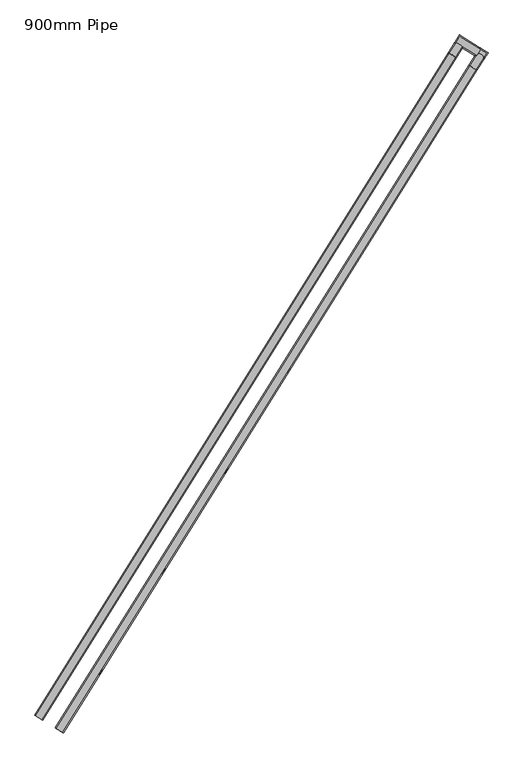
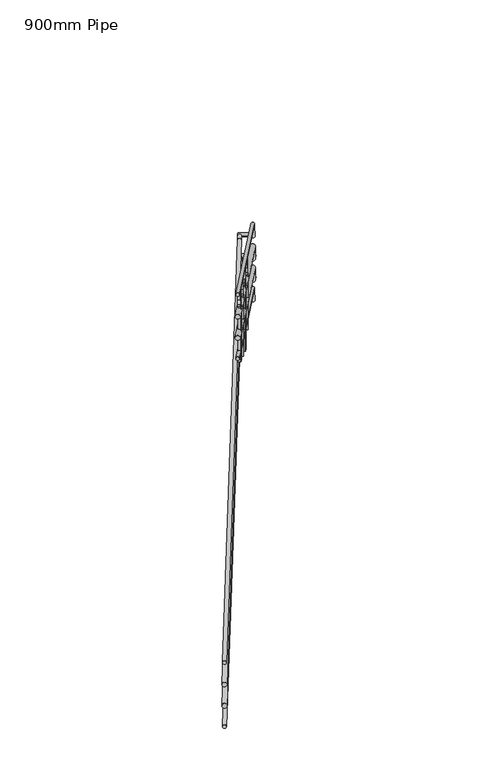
"""IFC4 building model written with IfcOpenShell, lengths in millimetres: railing geometry, 900mm Pipe."""

from ifc_helpers import new_model, si_unit, point, frame, frame_2d, origin, place, context, project, spatial, polyline, circle_curve, ellipse_curve, trimmed, segment, composite_curve, outline, extrude, source, transform, mapped, element, save
from ifc_brep_helpers import plane_surface, cylinder_surface, advanced_brep


def railing_900mm_pipe_27f02cc4(model_context):
    return source(origin(), model_context, "Body", "SolidModel", [
        advanced_brep(
        [(45849.2255802, -53294.2540452, 833.2294902), (45874.6670231, -53310.1516232, 833.2294902), (47597.9591522, -50495.6953279, 2483.2294902), (47623.400595, -50511.5929058, 2483.2294902)],
        [
            (0, 1, ellipse_curve(frame((45861.9463016, -53302.2028342, 833.2294902), z_axis=(-0.5299192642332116, -0.8480480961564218, 0.0), x_axis=(0.0, 0.0, -1.0)), 16.7705098, 15.0)),
            (1, 0, ellipse_curve(frame((45861.9463016, -53302.2028342, 833.2294902), z_axis=(-0.5299192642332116, -0.8480480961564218, 0.0), x_axis=(0.0, 0.0, -1.0)), 16.7705098, 15.0)),
            (2, 3, ellipse_curve(frame((47610.6798736, -50503.6441169, 2483.2294902), z_axis=(0.5299192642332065, 0.848048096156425, 0.0), x_axis=(0.0, 0.0, -1.0)), 16.7705098, 15.0)),
            (3, 2, ellipse_curve(frame((47610.6798736, -50503.6441169, 2483.2294902), z_axis=(0.5299192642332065, 0.848048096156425, 0.0), x_axis=(0.0, 0.0, -1.0)), 16.7705098, 15.0)),
            (0, 2),
            (3, 1),
        ],
        [
            plane_surface(frame((45861.9463016, -53302.2028342, 850.0), z_axis=(-0.5299192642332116, -0.8480480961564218, 0.0), x_axis=(0.8480480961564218, -0.5299192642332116, 0.0))),
            plane_surface(frame((47610.6798736, -50503.6441169, 2500.0), z_axis=(0.5299192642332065, 0.848048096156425, 0.0), x_axis=(0.848048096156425, -0.5299192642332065, 0.0))),
            cylinder_surface(frame((45865.5011081, -53296.5139546, 836.5835921), z_axis=(-0.47397419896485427, -0.758517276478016, -0.44721359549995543), x_axis=(0.848048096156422, -0.5299192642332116, 0.0)), 15.0),
        ],
        [
            (0, [[1, 2]]),
            (1, [[3, 4]]),
            (2, [[-1, 5, -4, 6]]),
            (2, [[-2, -6, -3, -5]]),
        ],
    ),
        advanced_brep(
        [(47597.9591522, -50495.6953279, 2485.0), (47623.400595, -50511.5929058, 2485.0), (47625.9354666, -50450.9238659, 2485.0), (47651.3769095, -50466.8214438, 2485.0)],
        [
            (0, 1, circle_curve(frame((47610.6798736, -50503.6441169, 2485.0), z_axis=(-0.5299192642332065, -0.848048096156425, 0.0), x_axis=(0.848048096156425, -0.5299192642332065, 0.0)), 15.0)),
            (1, 0, circle_curve(frame((47610.6798736, -50503.6441169, 2485.0), z_axis=(-0.5299192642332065, -0.848048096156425, 0.0), x_axis=(0.848048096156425, -0.5299192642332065, 0.0)), 15.0)),
            (2, 3, circle_curve(frame((47638.6561881, -50458.8726548, 2485.0), z_axis=(0.5299192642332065, 0.848048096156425, 0.0), x_axis=(0.848048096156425, -0.5299192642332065, 0.0)), 15.0)),
            (3, 2, circle_curve(frame((47638.6561881, -50458.8726548, 2485.0), z_axis=(0.5299192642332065, 0.848048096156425, 0.0), x_axis=(0.848048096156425, -0.5299192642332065, 0.0)), 15.0)),
            (0, 2),
            (3, 1),
        ],
        [
            plane_surface(frame((47610.6798736, -50503.6441169, 2500.0), z_axis=(-0.5299192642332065, -0.848048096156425, 0.0), x_axis=(0.848048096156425, -0.5299192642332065, 0.0))),
            plane_surface(frame((47638.6561881, -50458.8726548, 2500.0), z_axis=(0.529919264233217, 0.8480480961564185, 0.0), x_axis=(0.8480480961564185, -0.529919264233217, 0.0))),
            cylinder_surface(frame((47610.6798736, -50503.6441169, 2485.0), z_axis=(-0.5299192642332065, -0.848048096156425, 0.0), x_axis=(0.848048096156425, -0.5299192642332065, 0.0)), 15.0),
        ],
        [
            (0, [[1, 2]]),
            (1, [[3, 4]]),
            (2, [[-1, 5, -4, 6]]),
            (2, [[-2, -6, -3, -5]]),
        ],
    ),
        advanced_brep(
        [(47641.8330446, -50425.482423, 2485.0), (47625.9354666, -50450.9238659, 2485.0), (47728.6891953, -50479.7561696, 2485.0), (47712.7916173, -50505.1976125, 2485.0)],
        [
            (0, 1, circle_curve(frame((47633.8842556, -50438.2031444, 2485.0), z_axis=(-0.8480480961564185, 0.529919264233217, 0.0), x_axis=(-0.529919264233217, -0.8480480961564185, 0.0)), 15.0)),
            (1, 0, circle_curve(frame((47633.8842556, -50438.2031444, 2485.0), z_axis=(-0.8480480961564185, 0.529919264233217, 0.0), x_axis=(-0.529919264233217, -0.8480480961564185, 0.0)), 15.0)),
            (2, 3, circle_curve(frame((47720.7404063, -50492.476891, 2485.0), z_axis=(0.8480480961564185, -0.529919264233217, 0.0), x_axis=(-0.529919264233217, -0.8480480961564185, 0.0)), 15.0)),
            (3, 2, circle_curve(frame((47720.7404063, -50492.476891, 2485.0), z_axis=(0.8480480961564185, -0.529919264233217, 0.0), x_axis=(-0.529919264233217, -0.8480480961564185, 0.0)), 15.0)),
            (0, 2),
            (3, 1),
        ],
        [
            plane_surface(frame((47633.8842556, -50438.2031444, 2500.0), z_axis=(-0.848048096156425, 0.5299192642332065, 0.0), x_axis=(0.5299192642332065, 0.848048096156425, 0.0))),
            plane_surface(frame((47720.7404063, -50492.476891, 2500.0), z_axis=(0.8480480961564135, -0.5299192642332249, 0.0), x_axis=(0.5299192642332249, 0.8480480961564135, 0.0))),
            cylinder_surface(frame((47633.8842556, -50438.2031444, 2485.0), z_axis=(-0.8480480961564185, 0.529919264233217, 0.0), x_axis=(-0.529919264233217, -0.8480480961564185, 0.0)), 15.0),
        ],
        [
            (0, [[1, 2]]),
            (1, [[3, 4]]),
            (2, [[-1, 5, -4, 6]]),
            (2, [[-2, -6, -3, -5]]),
        ],
    ),
        advanced_brep(
        [(47754.1306382, -50495.6537475, 2485.0), (47728.6891953, -50479.7561696, 2485.0), (47741.0514371, -50516.5848446, 2485.0), (47715.6099942, -50500.6872667, 2485.0), (47710.2567458, -50565.8666524, 2613.5787167), (47684.8153029, -50549.9690745, 2613.5787167)],
        [
            (0, 1, circle_curve(frame((47741.4099167, -50487.7049585, 2485.0), z_axis=(0.5299192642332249, 0.8480480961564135, 0.0), x_axis=(-0.8480480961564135, 0.5299192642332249, 0.0)), 15.0)),
            (1, 0, circle_curve(frame((47741.4099167, -50487.7049585, 2485.0), z_axis=(0.5299192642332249, 0.8480480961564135, 0.0), x_axis=(-0.8480480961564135, 0.5299192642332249, 0.0)), 15.0)),
            (0, 2),
            (2, 3, ellipse_curve(frame((47728.3307156, -50508.6360557, 2485.0), z_axis=(0.44523422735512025, 0.7125237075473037, -0.5422881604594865), x_axis=(0.28736894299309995, 0.45988644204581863, 0.8401925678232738)), 17.8530501, 15.0)),
            (3, 1),
            (3, 2, ellipse_curve(frame((47728.3307156, -50508.6360557, 2485.0), z_axis=(0.44523422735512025, 0.7125237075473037, -0.5422881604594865), x_axis=(0.28736894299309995, 0.45988644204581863, 0.8401925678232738)), 17.8530501, 15.0)),
            (4, 5, ellipse_curve(frame((47697.5360243, -50557.9178635, 2613.5787167), z_axis=(-0.5299192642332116, -0.8480480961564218, 0.0), x_axis=(0.0, 0.0, -1.0)), 36.4212833, 15.0)),
            (5, 4, ellipse_curve(frame((47697.5360243, -50557.9178635, 2613.5787167), z_axis=(-0.5299192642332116, -0.8480480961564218, 0.0), x_axis=(0.0, 0.0, -1.0)), 36.4212833, 15.0)),
            (2, 4),
            (5, 3),
        ],
        [
            plane_surface(frame((47741.4099167, -50487.7049585, 2500.0), z_axis=(0.529919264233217, 0.8480480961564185, 0.0), x_axis=(0.8480480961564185, -0.529919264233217, 0.0))),
            cylinder_surface(frame((47741.4099167, -50487.7049585, 2485.0), z_axis=(0.5299192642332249, 0.8480480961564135, 0.0), x_axis=(-0.8480480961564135, 0.5299192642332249, 0.0)), 15.0),
            plane_surface(frame((47697.5360243, -50557.9178635, 2650.0), z_axis=(-0.5299192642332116, -0.8480480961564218, 0.0), x_axis=(0.8480480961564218, -0.5299192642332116, 0.0))),
            cylinder_surface(frame((47726.2177702, -50512.0174751, 2493.8222935), z_axis=(0.21824571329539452, 0.34926615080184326, -0.9112529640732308), x_axis=(-0.848048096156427, 0.5299192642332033, 0.0)), 15.0),
        ],
        [
            (0, [[1, 2]]),
            (1, [[-1, 3, 4, 5]]),
            (1, [[-2, -5, 6, -3]]),
            (2, [[7, 8]]),
            (3, [[-4, 9, -8, 10]]),
            (3, [[-6, -10, -7, -9]]),
        ],
    ),
        advanced_brep(
        [(47710.2567458, -50565.8666524, 2633.2294902), (47684.8153029, -50549.9690745, 2633.2294902), (45961.5231738, -53364.4253698, 4283.2294902), (45936.0817309, -53348.5277918, 4283.2294902)],
        [
            (0, 1, ellipse_curve(frame((47697.5360243, -50557.9178635, 2633.2294902), z_axis=(0.5299192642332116, 0.8480480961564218, 0.0), x_axis=(0.0, 0.0, -1.0)), 16.7705098, 15.0)),
            (1, 0, ellipse_curve(frame((47697.5360243, -50557.9178635, 2633.2294902), z_axis=(0.5299192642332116, 0.8480480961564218, 0.0), x_axis=(0.0, 0.0, -1.0)), 16.7705098, 15.0)),
            (2, 3, ellipse_curve(frame((45948.8024523, -53356.4765808, 4283.2294902), z_axis=(-0.5299192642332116, -0.8480480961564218, 0.0), x_axis=(0.0, 0.0, -1.0)), 16.7705098, 15.0)),
            (3, 2, ellipse_curve(frame((45948.8024523, -53356.4765808, 4283.2294902), z_axis=(-0.5299192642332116, -0.8480480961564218, 0.0), x_axis=(0.0, 0.0, -1.0)), 16.7705098, 15.0)),
            (0, 2),
            (3, 1),
        ],
        [
            plane_surface(frame((47697.5360243, -50557.9178635, 2650.0), z_axis=(0.5299192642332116, 0.8480480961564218, 0.0), x_axis=(0.8480480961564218, -0.5299192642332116, 0.0))),
            plane_surface(frame((45948.8024523, -53356.4765808, 4300.0), z_axis=(-0.5299192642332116, -0.8480480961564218, 0.0), x_axis=(0.8480480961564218, -0.5299192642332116, 0.0))),
            cylinder_surface(frame((47693.9812178, -50563.6067431, 2636.5835921), z_axis=(0.47397419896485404, 0.7585172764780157, -0.44721359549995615), x_axis=(-0.8480480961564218, 0.5299192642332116, 0.0)), 15.0),
        ],
        [
            (0, [[1, 2]]),
            (1, [[3, 4]]),
            (2, [[-1, 5, -4, 6]]),
            (2, [[-2, -6, -3, -5]]),
        ],
    ),
        advanced_brep(
        [(45844.9853397, -53291.6044489, 627.6393202), (45878.9072636, -53312.8012195, 627.6393202), (47593.7189117, -50493.0457316, 2277.6393202), (47627.6408355, -50514.2425022, 2277.6393202)],
        [
            (0, 1, ellipse_curve(frame((45861.9463016, -53302.2028342, 627.6393202), z_axis=(-0.5299192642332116, -0.8480480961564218, 0.0), x_axis=(0.0, 0.0, -1.0)), 22.3606798, 20.0)),
            (1, 0, ellipse_curve(frame((45861.9463016, -53302.2028342, 627.6393202), z_axis=(-0.5299192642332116, -0.8480480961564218, 0.0), x_axis=(0.0, 0.0, -1.0)), 22.3606798, 20.0)),
            (2, 3, ellipse_curve(frame((47610.6798736, -50503.6441169, 2277.6393202), z_axis=(0.5299192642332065, 0.848048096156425, 0.0), x_axis=(0.0, 0.0, -1.0)), 22.3606798, 20.0)),
            (3, 2, ellipse_curve(frame((47610.6798736, -50503.6441169, 2277.6393202), z_axis=(0.5299192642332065, 0.848048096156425, 0.0), x_axis=(0.0, 0.0, -1.0)), 22.3606798, 20.0)),
            (0, 2),
            (3, 1),
        ],
        [
            plane_surface(frame((45861.9463016, -53302.2028342, 650.0), z_axis=(-0.5299192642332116, -0.8480480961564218, 0.0), x_axis=(0.8480480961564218, -0.5299192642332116, 0.0))),
            plane_surface(frame((47610.6798736, -50503.6441169, 2300.0), z_axis=(0.5299192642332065, 0.848048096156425, 0.0), x_axis=(0.848048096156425, -0.5299192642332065, 0.0))),
            cylinder_surface(frame((45866.6860436, -53294.6176614, 632.1114562), z_axis=(-0.47397419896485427, -0.758517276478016, -0.44721359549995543), x_axis=(0.848048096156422, -0.5299192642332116, 0.0)), 20.0),
        ],
        [
            (0, [[1, 2]]),
            (1, [[3, 4]]),
            (2, [[-1, 5, -4, 6]]),
            (2, [[-2, -6, -3, -5]]),
        ],
    ),
        advanced_brep(
        [(47593.7189117, -50493.0457316, 2280.0), (47627.6408355, -50514.2425022, 2280.0), (47619.0456298, -50452.51451, 2280.0), (47652.9675537, -50473.7112806, 2280.0)],
        [
            (0, 1, circle_curve(frame((47610.6798736, -50503.6441169, 2280.0), z_axis=(-0.5299192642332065, -0.848048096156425, 0.0), x_axis=(0.848048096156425, -0.5299192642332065, 0.0)), 20.0)),
            (1, 0, circle_curve(frame((47610.6798736, -50503.6441169, 2280.0), z_axis=(-0.5299192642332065, -0.848048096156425, 0.0), x_axis=(0.848048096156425, -0.5299192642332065, 0.0)), 20.0)),
            (2, 3, circle_curve(frame((47636.0065918, -50463.1128953, 2280.0), z_axis=(0.5299192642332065, 0.848048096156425, 0.0), x_axis=(0.848048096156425, -0.5299192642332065, 0.0)), 20.0)),
            (3, 2, circle_curve(frame((47636.0065918, -50463.1128953, 2280.0), z_axis=(0.5299192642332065, 0.848048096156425, 0.0), x_axis=(0.848048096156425, -0.5299192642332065, 0.0)), 20.0)),
            (0, 2),
            (3, 1),
        ],
        [
            plane_surface(frame((47610.6798736, -50503.6441169, 2300.0), z_axis=(-0.5299192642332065, -0.848048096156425, 0.0), x_axis=(0.848048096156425, -0.5299192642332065, 0.0))),
            plane_surface(frame((47636.0065918, -50463.1128953, 2300.0), z_axis=(0.529919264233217, 0.8480480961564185, 0.0), x_axis=(0.8480480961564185, -0.529919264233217, 0.0))),
            cylinder_surface(frame((47610.6798736, -50503.6441169, 2280.0), z_axis=(-0.5299192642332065, -0.848048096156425, 0.0), x_axis=(0.848048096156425, -0.5299192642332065, 0.0)), 20.0),
        ],
        [
            (0, [[1, 2]]),
            (1, [[3, 4]]),
            (2, [[-1, 5, -4, 6]]),
            (2, [[-2, -6, -3, -5]]),
        ],
    ),
        advanced_brep(
        [(47640.2424004, -50418.5925862, 2280.0), (47619.0456298, -50452.51451, 2280.0), (47727.0985511, -50472.8663328, 2280.0), (47705.9017805, -50506.7882566, 2280.0)],
        [
            (0, 1, circle_curve(frame((47629.6440151, -50435.5535481, 2280.0), z_axis=(-0.8480480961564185, 0.529919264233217, 0.0), x_axis=(-0.529919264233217, -0.8480480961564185, 0.0)), 20.0)),
            (1, 0, circle_curve(frame((47629.6440151, -50435.5535481, 2280.0), z_axis=(-0.8480480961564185, 0.529919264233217, 0.0), x_axis=(-0.529919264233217, -0.8480480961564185, 0.0)), 20.0)),
            (2, 3, circle_curve(frame((47716.5001658, -50489.8272947, 2280.0), z_axis=(0.8480480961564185, -0.529919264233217, 0.0), x_axis=(-0.529919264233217, -0.8480480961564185, 0.0)), 20.0)),
            (3, 2, circle_curve(frame((47716.5001658, -50489.8272947, 2280.0), z_axis=(0.8480480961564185, -0.529919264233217, 0.0), x_axis=(-0.529919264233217, -0.8480480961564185, 0.0)), 20.0)),
            (0, 2),
            (3, 1),
        ],
        [
            plane_surface(frame((47629.6440151, -50435.5535481, 2300.0), z_axis=(-0.848048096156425, 0.5299192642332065, 0.0), x_axis=(0.5299192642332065, 0.848048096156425, 0.0))),
            plane_surface(frame((47716.5001658, -50489.8272947, 2300.0), z_axis=(0.8480480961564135, -0.5299192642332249, 0.0), x_axis=(0.5299192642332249, 0.8480480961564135, 0.0))),
            cylinder_surface(frame((47629.6440151, -50435.5535481, 2280.0), z_axis=(-0.8480480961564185, 0.529919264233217, 0.0), x_axis=(-0.529919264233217, -0.8480480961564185, 0.0)), 20.0),
        ],
        [
            (0, [[1, 2]]),
            (1, [[3, 4]]),
            (2, [[-1, 5, -4, 6]]),
            (2, [[-2, -6, -3, -5]]),
        ],
    ),
        advanced_brep(
        [(47761.020475, -50494.0631033, 2280.0), (47727.0985511, -50472.8663328, 2280.0), (47743.5815402, -50521.9712329, 2280.0), (47709.6596163, -50500.7744623, 2280.0), (47714.4969862, -50568.5162488, 2401.4382889), (47680.5750624, -50547.3194782, 2401.4382889)],
        [
            (0, 1, circle_curve(frame((47744.059513, -50483.4647181, 2280.0), z_axis=(0.5299192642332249, 0.8480480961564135, 0.0), x_axis=(-0.8480480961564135, 0.5299192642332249, 0.0)), 20.0)),
            (1, 0, circle_curve(frame((47744.059513, -50483.4647181, 2280.0), z_axis=(0.5299192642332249, 0.8480480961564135, 0.0), x_axis=(-0.8480480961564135, 0.5299192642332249, 0.0)), 20.0)),
            (0, 2),
            (2, 3, ellipse_curve(frame((47726.6205782, -50511.3728476, 2280.0), z_axis=(0.44523422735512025, 0.7125237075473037, -0.5422881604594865), x_axis=(0.28736894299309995, 0.45988644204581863, 0.8401925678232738)), 23.8040668, 20.0)),
            (3, 1),
            (3, 2, ellipse_curve(frame((47726.6205782, -50511.3728476, 2280.0), z_axis=(0.44523422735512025, 0.7125237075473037, -0.5422881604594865), x_axis=(0.28736894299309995, 0.45988644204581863, 0.8401925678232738)), 23.8040668, 20.0)),
            (4, 5, ellipse_curve(frame((47697.5360243, -50557.9178635, 2401.4382889), z_axis=(-0.5299192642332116, -0.8480480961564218, 0.0), x_axis=(0.0, 0.0, -1.0)), 48.5617111, 20.0)),
            (5, 4, ellipse_curve(frame((47697.5360243, -50557.9178635, 2401.4382889), z_axis=(-0.5299192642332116, -0.8480480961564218, 0.0), x_axis=(0.0, 0.0, -1.0)), 48.5617111, 20.0)),
            (2, 4),
            (5, 3),
        ],
        [
            plane_surface(frame((47744.059513, -50483.4647181, 2300.0), z_axis=(0.529919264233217, 0.8480480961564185, 0.0), x_axis=(0.8480480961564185, -0.529919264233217, 0.0))),
            cylinder_surface(frame((47744.059513, -50483.4647181, 2280.0), z_axis=(0.5299192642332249, 0.8480480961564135, 0.0), x_axis=(-0.8480480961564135, 0.5299192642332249, 0.0)), 20.0),
            plane_surface(frame((47697.5360243, -50557.9178635, 2450.0), z_axis=(-0.5299192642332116, -0.8480480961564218, 0.0), x_axis=(0.8480480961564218, -0.5299192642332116, 0.0))),
            cylinder_surface(frame((47723.8033177, -50515.8814068, 2291.763058), z_axis=(0.21824571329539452, 0.34926615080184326, -0.9112529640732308), x_axis=(-0.848048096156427, 0.5299192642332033, 0.0)), 20.0),
        ],
        [
            (0, [[1, 2]]),
            (1, [[-1, 3, 4, 5]]),
            (1, [[-2, -5, 6, -3]]),
            (2, [[7, 8]]),
            (3, [[-4, 9, -8, 10]]),
            (3, [[-6, -10, -7, -9]]),
        ],
    ),
        advanced_brep(
        [(47714.4969862, -50568.5162488, 2427.6393202), (47680.5750624, -50547.3194782, 2427.6393202), (45965.7634143, -53367.0749661, 4077.6393202), (45931.8414904, -53345.8781955, 4077.6393202)],
        [
            (0, 1, ellipse_curve(frame((47697.5360243, -50557.9178635, 2427.6393202), z_axis=(0.5299192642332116, 0.8480480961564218, 0.0), x_axis=(0.0, 0.0, -1.0)), 22.3606798, 20.0)),
            (1, 0, ellipse_curve(frame((47697.5360243, -50557.9178635, 2427.6393202), z_axis=(0.5299192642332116, 0.8480480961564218, 0.0), x_axis=(0.0, 0.0, -1.0)), 22.3606798, 20.0)),
            (2, 3, ellipse_curve(frame((45948.8024523, -53356.4765808, 4077.6393202), z_axis=(-0.5299192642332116, -0.8480480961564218, 0.0), x_axis=(0.0, 0.0, -1.0)), 22.3606798, 20.0)),
            (3, 2, ellipse_curve(frame((45948.8024523, -53356.4765808, 4077.6393202), z_axis=(-0.5299192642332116, -0.8480480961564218, 0.0), x_axis=(0.0, 0.0, -1.0)), 22.3606798, 20.0)),
            (0, 2),
            (3, 1),
        ],
        [
            plane_surface(frame((47697.5360243, -50557.9178635, 2450.0), z_axis=(0.5299192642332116, 0.8480480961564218, 0.0), x_axis=(0.8480480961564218, -0.5299192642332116, 0.0))),
            plane_surface(frame((45948.8024523, -53356.4765808, 4100.0), z_axis=(-0.5299192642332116, -0.8480480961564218, 0.0), x_axis=(0.8480480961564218, -0.5299192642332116, 0.0))),
            cylinder_surface(frame((47692.7962823, -50565.5030362, 2432.1114562), z_axis=(0.47397419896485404, 0.7585172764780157, -0.44721359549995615), x_axis=(-0.8480480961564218, 0.5299192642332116, 0.0)), 20.0),
        ],
        [
            (0, [[1, 2]]),
            (1, [[3, 4]]),
            (2, [[-1, 5, -4, 6]]),
            (2, [[-2, -6, -3, -5]]),
        ],
    ),
        advanced_brep(
        [(45844.9853397, -53291.6044489, 427.6393202), (45878.9072636, -53312.8012195, 427.6393202), (47593.7189117, -50493.0457316, 2077.6393202), (47627.6408355, -50514.2425022, 2077.6393202)],
        [
            (0, 1, ellipse_curve(frame((45861.9463016, -53302.2028342, 427.6393202), z_axis=(-0.5299192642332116, -0.8480480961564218, 0.0), x_axis=(0.0, 0.0, -1.0)), 22.3606798, 20.0)),
            (1, 0, ellipse_curve(frame((45861.9463016, -53302.2028342, 427.6393202), z_axis=(-0.5299192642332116, -0.8480480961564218, 0.0), x_axis=(0.0, 0.0, -1.0)), 22.3606798, 20.0)),
            (2, 3, ellipse_curve(frame((47610.6798736, -50503.6441169, 2077.6393202), z_axis=(0.5299192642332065, 0.848048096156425, 0.0), x_axis=(0.0, 0.0, -1.0)), 22.3606798, 20.0)),
            (3, 2, ellipse_curve(frame((47610.6798736, -50503.6441169, 2077.6393202), z_axis=(0.5299192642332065, 0.848048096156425, 0.0), x_axis=(0.0, 0.0, -1.0)), 22.3606798, 20.0)),
            (0, 2),
            (3, 1),
        ],
        [
            plane_surface(frame((45861.9463016, -53302.2028342, 450.0), z_axis=(-0.5299192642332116, -0.8480480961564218, 0.0), x_axis=(0.8480480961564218, -0.5299192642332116, 0.0))),
            plane_surface(frame((47610.6798736, -50503.6441169, 2100.0), z_axis=(0.5299192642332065, 0.848048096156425, 0.0), x_axis=(0.848048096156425, -0.5299192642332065, 0.0))),
            cylinder_surface(frame((45866.6860436, -53294.6176614, 432.1114562), z_axis=(-0.47397419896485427, -0.758517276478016, -0.44721359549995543), x_axis=(0.848048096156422, -0.5299192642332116, 0.0)), 20.0),
        ],
        [
            (0, [[1, 2]]),
            (1, [[3, 4]]),
            (2, [[-1, 5, -4, 6]]),
            (2, [[-2, -6, -3, -5]]),
        ],
    ),
        advanced_brep(
        [(47593.7189117, -50493.0457316, 2080.0), (47627.6408355, -50514.2425022, 2080.0), (47619.0456298, -50452.51451, 2080.0), (47652.9675537, -50473.7112806, 2080.0)],
        [
            (0, 1, circle_curve(frame((47610.6798736, -50503.6441169, 2080.0), z_axis=(-0.5299192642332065, -0.848048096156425, 0.0), x_axis=(0.848048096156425, -0.5299192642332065, 0.0)), 20.0)),
            (1, 0, circle_curve(frame((47610.6798736, -50503.6441169, 2080.0), z_axis=(-0.5299192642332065, -0.848048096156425, 0.0), x_axis=(0.848048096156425, -0.5299192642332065, 0.0)), 20.0)),
            (2, 3, circle_curve(frame((47636.0065918, -50463.1128953, 2080.0), z_axis=(0.5299192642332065, 0.848048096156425, 0.0), x_axis=(0.848048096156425, -0.5299192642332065, 0.0)), 20.0)),
            (3, 2, circle_curve(frame((47636.0065918, -50463.1128953, 2080.0), z_axis=(0.5299192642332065, 0.848048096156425, 0.0), x_axis=(0.848048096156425, -0.5299192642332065, 0.0)), 20.0)),
            (0, 2),
            (3, 1),
        ],
        [
            plane_surface(frame((47610.6798736, -50503.6441169, 2100.0), z_axis=(-0.5299192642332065, -0.848048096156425, 0.0), x_axis=(0.848048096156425, -0.5299192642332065, 0.0))),
            plane_surface(frame((47636.0065918, -50463.1128953, 2100.0), z_axis=(0.529919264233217, 0.8480480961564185, 0.0), x_axis=(0.8480480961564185, -0.529919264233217, 0.0))),
            cylinder_surface(frame((47610.6798736, -50503.6441169, 2080.0), z_axis=(-0.5299192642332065, -0.848048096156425, 0.0), x_axis=(0.848048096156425, -0.5299192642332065, 0.0)), 20.0),
        ],
        [
            (0, [[1, 2]]),
            (1, [[3, 4]]),
            (2, [[-1, 5, -4, 6]]),
            (2, [[-2, -6, -3, -5]]),
        ],
    ),
        advanced_brep(
        [(47640.2424004, -50418.5925862, 2080.0), (47619.0456298, -50452.51451, 2080.0), (47727.0985511, -50472.8663328, 2080.0), (47705.9017805, -50506.7882566, 2080.0)],
        [
            (0, 1, circle_curve(frame((47629.6440151, -50435.5535481, 2080.0), z_axis=(-0.8480480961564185, 0.529919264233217, 0.0), x_axis=(-0.529919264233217, -0.8480480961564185, 0.0)), 20.0)),
            (1, 0, circle_curve(frame((47629.6440151, -50435.5535481, 2080.0), z_axis=(-0.8480480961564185, 0.529919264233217, 0.0), x_axis=(-0.529919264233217, -0.8480480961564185, 0.0)), 20.0)),
            (2, 3, circle_curve(frame((47716.5001658, -50489.8272947, 2080.0), z_axis=(0.8480480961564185, -0.529919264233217, 0.0), x_axis=(-0.529919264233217, -0.8480480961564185, 0.0)), 20.0)),
            (3, 2, circle_curve(frame((47716.5001658, -50489.8272947, 2080.0), z_axis=(0.8480480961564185, -0.529919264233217, 0.0), x_axis=(-0.529919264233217, -0.8480480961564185, 0.0)), 20.0)),
            (0, 2),
            (3, 1),
        ],
        [
            plane_surface(frame((47629.6440151, -50435.5535481, 2100.0), z_axis=(-0.848048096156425, 0.5299192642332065, 0.0), x_axis=(0.5299192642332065, 0.848048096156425, 0.0))),
            plane_surface(frame((47716.5001658, -50489.8272947, 2100.0), z_axis=(0.8480480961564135, -0.5299192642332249, 0.0), x_axis=(0.5299192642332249, 0.8480480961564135, 0.0))),
            cylinder_surface(frame((47629.6440151, -50435.5535481, 2080.0), z_axis=(-0.8480480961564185, 0.529919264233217, 0.0), x_axis=(-0.529919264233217, -0.8480480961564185, 0.0)), 20.0),
        ],
        [
            (0, [[1, 2]]),
            (1, [[3, 4]]),
            (2, [[-1, 5, -4, 6]]),
            (2, [[-2, -6, -3, -5]]),
        ],
    ),
        advanced_brep(
        [(47761.020475, -50494.0631033, 2080.0), (47727.0985511, -50472.8663328, 2080.0), (47743.5815402, -50521.9712329, 2080.0), (47709.6596163, -50500.7744623, 2080.0), (47714.4969862, -50568.5162488, 2201.4382889), (47680.5750624, -50547.3194782, 2201.4382889)],
        [
            (0, 1, circle_curve(frame((47744.059513, -50483.4647181, 2080.0), z_axis=(0.5299192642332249, 0.8480480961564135, 0.0), x_axis=(-0.8480480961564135, 0.5299192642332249, 0.0)), 20.0)),
            (1, 0, circle_curve(frame((47744.059513, -50483.4647181, 2080.0), z_axis=(0.5299192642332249, 0.8480480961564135, 0.0), x_axis=(-0.8480480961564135, 0.5299192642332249, 0.0)), 20.0)),
            (0, 2),
            (2, 3, ellipse_curve(frame((47726.6205782, -50511.3728476, 2080.0), z_axis=(0.44523422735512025, 0.7125237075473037, -0.5422881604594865), x_axis=(0.28736894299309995, 0.45988644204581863, 0.8401925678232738)), 23.8040668, 20.0)),
            (3, 1),
            (3, 2, ellipse_curve(frame((47726.6205782, -50511.3728476, 2080.0), z_axis=(0.44523422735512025, 0.7125237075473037, -0.5422881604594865), x_axis=(0.28736894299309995, 0.45988644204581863, 0.8401925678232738)), 23.8040668, 20.0)),
            (4, 5, ellipse_curve(frame((47697.5360243, -50557.9178635, 2201.4382889), z_axis=(-0.5299192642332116, -0.8480480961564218, 0.0), x_axis=(0.0, 0.0, -1.0)), 48.5617111, 20.0)),
            (5, 4, ellipse_curve(frame((47697.5360243, -50557.9178635, 2201.4382889), z_axis=(-0.5299192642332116, -0.8480480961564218, 0.0), x_axis=(0.0, 0.0, -1.0)), 48.5617111, 20.0)),
            (2, 4),
            (5, 3),
        ],
        [
            plane_surface(frame((47744.059513, -50483.4647181, 2100.0), z_axis=(0.529919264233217, 0.8480480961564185, 0.0), x_axis=(0.8480480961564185, -0.529919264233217, 0.0))),
            cylinder_surface(frame((47744.059513, -50483.4647181, 2080.0), z_axis=(0.5299192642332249, 0.8480480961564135, 0.0), x_axis=(-0.8480480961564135, 0.5299192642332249, 0.0)), 20.0),
            plane_surface(frame((47697.5360243, -50557.9178635, 2250.0), z_axis=(-0.5299192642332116, -0.8480480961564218, 0.0), x_axis=(0.8480480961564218, -0.5299192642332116, 0.0))),
            cylinder_surface(frame((47723.8033177, -50515.8814068, 2091.763058), z_axis=(0.21824571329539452, 0.34926615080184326, -0.9112529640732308), x_axis=(-0.848048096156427, 0.5299192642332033, 0.0)), 20.0),
        ],
        [
            (0, [[1, 2]]),
            (1, [[-1, 3, 4, 5]]),
            (1, [[-2, -5, 6, -3]]),
            (2, [[7, 8]]),
            (3, [[-4, 9, -8, 10]]),
            (3, [[-6, -10, -7, -9]]),
        ],
    ),
        advanced_brep(
        [(47714.4969862, -50568.5162488, 2227.6393202), (47680.5750624, -50547.3194782, 2227.6393202), (45965.7634143, -53367.0749661, 3877.6393202), (45931.8414904, -53345.8781955, 3877.6393202)],
        [
            (0, 1, ellipse_curve(frame((47697.5360243, -50557.9178635, 2227.6393202), z_axis=(0.5299192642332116, 0.8480480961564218, 0.0), x_axis=(0.0, 0.0, -1.0)), 22.3606798, 20.0)),
            (1, 0, ellipse_curve(frame((47697.5360243, -50557.9178635, 2227.6393202), z_axis=(0.5299192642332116, 0.8480480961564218, 0.0), x_axis=(0.0, 0.0, -1.0)), 22.3606798, 20.0)),
            (2, 3, ellipse_curve(frame((45948.8024523, -53356.4765808, 3877.6393202), z_axis=(-0.5299192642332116, -0.8480480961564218, 0.0), x_axis=(0.0, 0.0, -1.0)), 22.3606798, 20.0)),
            (3, 2, ellipse_curve(frame((45948.8024523, -53356.4765808, 3877.6393202), z_axis=(-0.5299192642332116, -0.8480480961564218, 0.0), x_axis=(0.0, 0.0, -1.0)), 22.3606798, 20.0)),
            (0, 2),
            (3, 1),
        ],
        [
            plane_surface(frame((47697.5360243, -50557.9178635, 2250.0), z_axis=(0.5299192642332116, 0.8480480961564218, 0.0), x_axis=(0.8480480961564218, -0.5299192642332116, 0.0))),
            plane_surface(frame((45948.8024523, -53356.4765808, 3900.0), z_axis=(-0.5299192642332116, -0.8480480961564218, 0.0), x_axis=(0.8480480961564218, -0.5299192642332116, 0.0))),
            cylinder_surface(frame((47692.7962823, -50565.5030362, 2232.1114562), z_axis=(0.47397419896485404, 0.7585172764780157, -0.44721359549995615), x_axis=(-0.8480480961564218, 0.5299192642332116, 0.0)), 20.0),
        ],
        [
            (0, [[1, 2]]),
            (1, [[3, 4]]),
            (2, [[-1, 5, -4, 6]]),
            (2, [[-2, -6, -3, -5]]),
        ],
    ),
        advanced_brep(
        [(45849.2255802, -53294.2540452, 233.2294902), (45874.6670231, -53310.1516232, 233.2294902), (47597.9591522, -50495.6953279, 1883.2294902), (47623.400595, -50511.5929058, 1883.2294902)],
        [
            (0, 1, ellipse_curve(frame((45861.9463016, -53302.2028342, 233.2294902), z_axis=(-0.5299192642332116, -0.8480480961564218, 0.0), x_axis=(0.0, 0.0, -1.0)), 16.7705098, 15.0)),
            (1, 0, ellipse_curve(frame((45861.9463016, -53302.2028342, 233.2294902), z_axis=(-0.5299192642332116, -0.8480480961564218, 0.0), x_axis=(0.0, 0.0, -1.0)), 16.7705098, 15.0)),
            (2, 3, ellipse_curve(frame((47610.6798736, -50503.6441169, 1883.2294902), z_axis=(0.5299192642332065, 0.848048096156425, 0.0), x_axis=(0.0, 0.0, -1.0)), 16.7705098, 15.0)),
            (3, 2, ellipse_curve(frame((47610.6798736, -50503.6441169, 1883.2294902), z_axis=(0.5299192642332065, 0.848048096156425, 0.0), x_axis=(0.0, 0.0, -1.0)), 16.7705098, 15.0)),
            (0, 2),
            (3, 1),
        ],
        [
            plane_surface(frame((45861.9463016, -53302.2028342, 250.0), z_axis=(-0.5299192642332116, -0.8480480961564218, 0.0), x_axis=(0.8480480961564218, -0.5299192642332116, 0.0))),
            plane_surface(frame((47610.6798736, -50503.6441169, 1900.0), z_axis=(0.5299192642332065, 0.848048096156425, 0.0), x_axis=(0.848048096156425, -0.5299192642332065, 0.0))),
            cylinder_surface(frame((45865.5011081, -53296.5139546, 236.5835921), z_axis=(-0.47397419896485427, -0.758517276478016, -0.44721359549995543), x_axis=(0.848048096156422, -0.5299192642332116, 0.0)), 15.0),
        ],
        [
            (0, [[1, 2]]),
            (1, [[3, 4]]),
            (2, [[-1, 5, -4, 6]]),
            (2, [[-2, -6, -3, -5]]),
        ],
    ),
        advanced_brep(
        [(47597.9591522, -50495.6953279, 1885.0), (47623.400595, -50511.5929058, 1885.0), (47625.9354666, -50450.9238659, 1885.0), (47651.3769095, -50466.8214438, 1885.0)],
        [
            (0, 1, circle_curve(frame((47610.6798736, -50503.6441169, 1885.0), z_axis=(-0.5299192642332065, -0.848048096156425, 0.0), x_axis=(0.848048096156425, -0.5299192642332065, 0.0)), 15.0)),
            (1, 0, circle_curve(frame((47610.6798736, -50503.6441169, 1885.0), z_axis=(-0.5299192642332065, -0.848048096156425, 0.0), x_axis=(0.848048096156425, -0.5299192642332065, 0.0)), 15.0)),
            (2, 3, circle_curve(frame((47638.6561881, -50458.8726548, 1885.0), z_axis=(0.5299192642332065, 0.848048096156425, 0.0), x_axis=(0.848048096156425, -0.5299192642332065, 0.0)), 15.0)),
            (3, 2, circle_curve(frame((47638.6561881, -50458.8726548, 1885.0), z_axis=(0.5299192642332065, 0.848048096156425, 0.0), x_axis=(0.848048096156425, -0.5299192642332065, 0.0)), 15.0)),
            (0, 2),
            (3, 1),
        ],
        [
            plane_surface(frame((47610.6798736, -50503.6441169, 1900.0), z_axis=(-0.5299192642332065, -0.848048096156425, 0.0), x_axis=(0.848048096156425, -0.5299192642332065, 0.0))),
            plane_surface(frame((47638.6561881, -50458.8726548, 1900.0), z_axis=(0.529919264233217, 0.8480480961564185, 0.0), x_axis=(0.8480480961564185, -0.529919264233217, 0.0))),
            cylinder_surface(frame((47610.6798736, -50503.6441169, 1885.0), z_axis=(-0.5299192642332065, -0.848048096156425, 0.0), x_axis=(0.848048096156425, -0.5299192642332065, 0.0)), 15.0),
        ],
        [
            (0, [[1, 2]]),
            (1, [[3, 4]]),
            (2, [[-1, 5, -4, 6]]),
            (2, [[-2, -6, -3, -5]]),
        ],
    ),
        advanced_brep(
        [(47641.8330446, -50425.482423, 1885.0), (47625.9354666, -50450.9238659, 1885.0), (47728.6891953, -50479.7561696, 1885.0), (47712.7916173, -50505.1976125, 1885.0)],
        [
            (0, 1, circle_curve(frame((47633.8842556, -50438.2031444, 1885.0), z_axis=(-0.8480480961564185, 0.529919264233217, 0.0), x_axis=(-0.529919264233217, -0.8480480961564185, 0.0)), 15.0)),
            (1, 0, circle_curve(frame((47633.8842556, -50438.2031444, 1885.0), z_axis=(-0.8480480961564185, 0.529919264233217, 0.0), x_axis=(-0.529919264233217, -0.8480480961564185, 0.0)), 15.0)),
            (2, 3, circle_curve(frame((47720.7404063, -50492.476891, 1885.0), z_axis=(0.8480480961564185, -0.529919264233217, 0.0), x_axis=(-0.529919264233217, -0.8480480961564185, 0.0)), 15.0)),
            (3, 2, circle_curve(frame((47720.7404063, -50492.476891, 1885.0), z_axis=(0.8480480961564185, -0.529919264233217, 0.0), x_axis=(-0.529919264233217, -0.8480480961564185, 0.0)), 15.0)),
            (0, 2),
            (3, 1),
        ],
        [
            plane_surface(frame((47633.8842556, -50438.2031444, 1900.0), z_axis=(-0.848048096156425, 0.5299192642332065, 0.0), x_axis=(0.5299192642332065, 0.848048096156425, 0.0))),
            plane_surface(frame((47720.7404063, -50492.476891, 1900.0), z_axis=(0.8480480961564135, -0.5299192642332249, 0.0), x_axis=(0.5299192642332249, 0.8480480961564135, 0.0))),
            cylinder_surface(frame((47633.8842556, -50438.2031444, 1885.0), z_axis=(-0.8480480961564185, 0.529919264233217, 0.0), x_axis=(-0.529919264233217, -0.8480480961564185, 0.0)), 15.0),
        ],
        [
            (0, [[1, 2]]),
            (1, [[3, 4]]),
            (2, [[-1, 5, -4, 6]]),
            (2, [[-2, -6, -3, -5]]),
        ],
    ),
        advanced_brep(
        [(47754.1306382, -50495.6537475, 1885.0), (47728.6891953, -50479.7561696, 1885.0), (47741.0514371, -50516.5848446, 1885.0), (47715.6099942, -50500.6872667, 1885.0), (47710.2567458, -50565.8666524, 2013.5787167), (47684.8153029, -50549.9690745, 2013.5787167)],
        [
            (0, 1, circle_curve(frame((47741.4099167, -50487.7049585, 1885.0), z_axis=(0.5299192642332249, 0.8480480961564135, 0.0), x_axis=(-0.8480480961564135, 0.5299192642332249, 0.0)), 15.0)),
            (1, 0, circle_curve(frame((47741.4099167, -50487.7049585, 1885.0), z_axis=(0.5299192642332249, 0.8480480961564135, 0.0), x_axis=(-0.8480480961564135, 0.5299192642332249, 0.0)), 15.0)),
            (0, 2),
            (2, 3, ellipse_curve(frame((47728.3307156, -50508.6360557, 1885.0), z_axis=(0.44523422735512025, 0.7125237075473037, -0.5422881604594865), x_axis=(0.28736894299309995, 0.45988644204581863, 0.8401925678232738)), 17.8530501, 15.0)),
            (3, 1),
            (3, 2, ellipse_curve(frame((47728.3307156, -50508.6360557, 1885.0), z_axis=(0.44523422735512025, 0.7125237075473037, -0.5422881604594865), x_axis=(0.28736894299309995, 0.45988644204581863, 0.8401925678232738)), 17.8530501, 15.0)),
            (4, 5, ellipse_curve(frame((47697.5360243, -50557.9178635, 2013.5787167), z_axis=(-0.5299192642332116, -0.8480480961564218, 0.0), x_axis=(0.0, 0.0, -1.0)), 36.4212833, 15.0)),
            (5, 4, ellipse_curve(frame((47697.5360243, -50557.9178635, 2013.5787167), z_axis=(-0.5299192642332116, -0.8480480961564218, 0.0), x_axis=(0.0, 0.0, -1.0)), 36.4212833, 15.0)),
            (2, 4),
            (5, 3),
        ],
        [
            plane_surface(frame((47741.4099167, -50487.7049585, 1900.0), z_axis=(0.529919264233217, 0.8480480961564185, 0.0), x_axis=(0.8480480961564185, -0.529919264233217, 0.0))),
            cylinder_surface(frame((47741.4099167, -50487.7049585, 1885.0), z_axis=(0.5299192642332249, 0.8480480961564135, 0.0), x_axis=(-0.8480480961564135, 0.5299192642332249, 0.0)), 15.0),
            plane_surface(frame((47697.5360243, -50557.9178635, 2050.0), z_axis=(-0.5299192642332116, -0.8480480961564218, 0.0), x_axis=(0.8480480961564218, -0.5299192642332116, 0.0))),
            cylinder_surface(frame((47726.2177702, -50512.0174751, 1893.8222935), z_axis=(0.21824571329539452, 0.34926615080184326, -0.9112529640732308), x_axis=(-0.848048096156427, 0.5299192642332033, 0.0)), 15.0),
        ],
        [
            (0, [[1, 2]]),
            (1, [[-1, 3, 4, 5]]),
            (1, [[-2, -5, 6, -3]]),
            (2, [[7, 8]]),
            (3, [[-4, 9, -8, 10]]),
            (3, [[-6, -10, -7, -9]]),
        ],
    ),
        advanced_brep(
        [(47710.2567458, -50565.8666524, 2033.2294902), (47684.8153029, -50549.9690745, 2033.2294902), (45961.5231738, -53364.4253698, 3683.2294902), (45936.0817309, -53348.5277918, 3683.2294902)],
        [
            (0, 1, ellipse_curve(frame((47697.5360243, -50557.9178635, 2033.2294902), z_axis=(0.5299192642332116, 0.8480480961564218, 0.0), x_axis=(0.0, 0.0, -1.0)), 16.7705098, 15.0)),
            (1, 0, ellipse_curve(frame((47697.5360243, -50557.9178635, 2033.2294902), z_axis=(0.5299192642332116, 0.8480480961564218, 0.0), x_axis=(0.0, 0.0, -1.0)), 16.7705098, 15.0)),
            (2, 3, ellipse_curve(frame((45948.8024523, -53356.4765808, 3683.2294902), z_axis=(-0.5299192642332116, -0.8480480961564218, 0.0), x_axis=(0.0, 0.0, -1.0)), 16.7705098, 15.0)),
            (3, 2, ellipse_curve(frame((45948.8024523, -53356.4765808, 3683.2294902), z_axis=(-0.5299192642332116, -0.8480480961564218, 0.0), x_axis=(0.0, 0.0, -1.0)), 16.7705098, 15.0)),
            (0, 2),
            (3, 1),
        ],
        [
            plane_surface(frame((47697.5360243, -50557.9178635, 2050.0), z_axis=(0.5299192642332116, 0.8480480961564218, 0.0), x_axis=(0.8480480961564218, -0.5299192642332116, 0.0))),
            plane_surface(frame((45948.8024523, -53356.4765808, 3700.0), z_axis=(-0.5299192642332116, -0.8480480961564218, 0.0), x_axis=(0.8480480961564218, -0.5299192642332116, 0.0))),
            cylinder_surface(frame((47693.9812178, -50563.6067431, 2036.5835921), z_axis=(0.47397419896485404, 0.7585172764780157, -0.44721359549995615), x_axis=(-0.8480480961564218, 0.5299192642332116, 0.0)), 15.0),
        ],
        [
            (0, [[1, 2]]),
            (1, [[3, 4]]),
            (2, [[-1, 5, -4, 6]]),
            (2, [[-2, -6, -3, -5]]),
        ],
    ),
        extrude(outline(composite_curve([segment(trimmed(circle_curve(frame_2d((0.0, -31.75)), 31.75), [point((0.0, -63.5))], [point((0.0, 0.0))], False, "CARTESIAN"), True, "CONTINUOUS"), segment(trimmed(circle_curve(frame_2d((0.0, -31.75)), 31.75), [point((0.0, 0.0))], [point((0.0, -63.5))], False, "CARTESIAN"), True, "CONTINUOUS")], self_intersect=False), holes=[composite_curve([segment(trimmed(circle_curve(frame_2d((0.0, -31.75)), 12.7), [point((0.0, -44.4499999))], [point((0.0, -19.05))], True, "CARTESIAN"), True, "CONTINUOUS"), segment(trimmed(circle_curve(frame_2d((0.0, -31.75)), 12.7), [point((0.0, -19.05))], [point((0.0, -44.4499999))], True, "CARTESIAN"), True, "CONTINUOUS")], self_intersect=False)]), frame((46135.3733791, -53081.8665996, 3999.35), z_axis=(-0.8480480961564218, 0.5299192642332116, 0.0), x_axis=(0.0, 0.0, 1.0)), (0.0, 0.0, 1.0), 25.4),
        extrude(outline(polyline([(46108.1130418, -53083.5519074), (46129.6534635, -53097.0118567), (46116.1935141, -53118.5522784), (46094.6530925, -53105.0923291), (46108.1130418, -53083.5519074)])), frame((0.0, 0.0, 3450.0), z_axis=(0.0, 0.0, 1.0), x_axis=(1.0, 0.0, 0.0)), (0.0, 0.0, 1.0), 517.6),
        extrude(outline(polyline([(317.5, 0.0), (317.5, -25.4), (234.95, -25.4), (222.25, 0.0), (317.5, 0.0)])), frame((46111.8184678, -53119.5623374, 4348.6), z_axis=(-0.8480480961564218, 0.5299192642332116, 0.0), x_axis=(0.0, 0.0, -1.0)), (0.0, 0.0, 1.0), 25.4),
        extrude(outline(composite_curve([segment(trimmed(circle_curve(frame_2d((0.0, -31.75)), 31.75), [point((0.0, -63.5))], [point((0.0, 0.0))], False, "CARTESIAN"), True, "CONTINUOUS"), segment(trimmed(circle_curve(frame_2d((0.0, -31.75)), 31.75), [point((0.0, 0.0))], [point((0.0, -63.5))], False, "CARTESIAN"), True, "CONTINUOUS")], self_intersect=False), holes=[composite_curve([segment(trimmed(circle_curve(frame_2d((0.0, -31.75)), 12.7), [point((0.0, -44.4499999))], [point((0.0, -19.05))], True, "CARTESIAN"), True, "CONTINUOUS"), segment(trimmed(circle_curve(frame_2d((0.0, -31.75)), 12.7), [point((0.0, -19.05))], [point((0.0, -44.4499999))], True, "CARTESIAN"), True, "CONTINUOUS")], self_intersect=False)]), frame((46400.3330112, -52657.8425515, 3749.35), z_axis=(-0.8480480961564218, 0.5299192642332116, 0.0), x_axis=(0.0, 0.0, 1.0)), (0.0, 0.0, 1.0), 25.4),
        extrude(outline(polyline([(46373.0726739, -52659.5278594), (46394.6130956, -52672.9878087), (46381.1531463, -52694.5282303), (46359.6127246, -52681.068281), (46373.0726739, -52659.5278594)])), frame((0.0, 0.0, 3150.0), z_axis=(0.0, 0.0, 1.0), x_axis=(1.0, 0.0, 0.0)), (0.0, 0.0, 1.0), 567.6),
        extrude(outline(polyline([(317.5, 0.0), (317.5, -25.4), (234.95, -25.4), (222.25, 0.0), (317.5, 0.0)])), frame((46376.7780999, -52695.5382893, 4098.6), z_axis=(-0.8480480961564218, 0.5299192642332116, 0.0), x_axis=(0.0, 0.0, -1.0)), (0.0, 0.0, 1.0), 25.4),
        extrude(outline(composite_curve([segment(trimmed(circle_curve(frame_2d((0.0, -31.7499999)), 31.75), [point((0.0, -63.5))], [point((0.0, 0.0))], False, "CARTESIAN"), True, "CONTINUOUS"), segment(trimmed(circle_curve(frame_2d((0.0, -31.7499999)), 31.75), [point((0.0, 0.0))], [point((0.0, -63.5))], False, "CARTESIAN"), True, "CONTINUOUS")], self_intersect=False), holes=[composite_curve([segment(trimmed(circle_curve(frame_2d((0.0, -31.7499999)), 12.7), [point((0.0, -44.45))], [point((0.0, -19.05))], True, "CARTESIAN"), True, "CONTINUOUS"), segment(trimmed(circle_curve(frame_2d((0.0, -31.7499999)), 12.7), [point((0.0, -19.05))], [point((0.0, -44.45))], True, "CARTESIAN"), True, "CONTINUOUS")], self_intersect=False)]), frame((46665.2926433, -52233.8185034, 3499.35), z_axis=(-0.8480480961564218, 0.5299192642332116, 0.0), x_axis=(0.0, 0.0, 1.0)), (0.0, 0.0, 1.0), 25.4),
        extrude(outline(polyline([(46638.032306, -52235.5038113), (46659.5727277, -52248.9637606), (46646.1127784, -52270.5041822), (46624.5723567, -52257.0442329), (46638.032306, -52235.5038113)])), frame((0.0, 0.0, 2850.0), z_axis=(0.0, 0.0, 1.0), x_axis=(1.0, 0.0, 0.0)), (0.0, 0.0, 1.0), 617.6),
        extrude(outline(polyline([(317.5, 0.0), (317.5, -25.4), (234.95, -25.4), (222.25, 0.0), (317.5, 0.0)])), frame((46641.737732, -52271.5142413, 3848.6), z_axis=(-0.8480480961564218, 0.5299192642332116, 0.0), x_axis=(0.0, 0.0, -1.0)), (0.0, 0.0, 1.0), 25.4),
        extrude(outline(composite_curve([segment(trimmed(circle_curve(frame_2d((0.0, -31.75)), 31.75), [point((0.0, -63.5))], [point((0.0, 0.0))], False, "CARTESIAN"), True, "CONTINUOUS"), segment(trimmed(circle_curve(frame_2d((0.0, -31.75)), 31.75), [point((0.0, 0.0))], [point((0.0, -63.5))], False, "CARTESIAN"), True, "CONTINUOUS")], self_intersect=False), holes=[composite_curve([segment(trimmed(circle_curve(frame_2d((0.0, -31.75)), 12.7), [point((0.0, -44.45))], [point((0.0, -19.05))], True, "CARTESIAN"), True, "CONTINUOUS"), segment(trimmed(circle_curve(frame_2d((0.0, -31.75)), 12.7), [point((0.0, -19.05))], [point((0.0, -44.45))], True, "CARTESIAN"), True, "CONTINUOUS")], self_intersect=False)]), frame((46930.2522754, -51809.7944553, 3249.35), z_axis=(-0.8480480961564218, 0.5299192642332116, 0.0), x_axis=(0.0, 0.0, 1.0)), (0.0, 0.0, 1.0), 25.4),
        extrude(outline(polyline([(46902.9919382, -51811.4797632), (46924.5323598, -51824.9397125), (46911.0724105, -51846.4801341), (46889.5319889, -51833.0201848), (46902.9919382, -51811.4797632)])), frame((0.0, 0.0, 2700.0), z_axis=(0.0, 0.0, 1.0), x_axis=(1.0, 0.0, 0.0)), (0.0, 0.0, 1.0), 517.6),
        extrude(outline(polyline([(317.5, 0.0), (317.5, -25.4), (234.95, -25.4), (222.25, 0.0), (317.5, 0.0)])), frame((46906.6973641, -51847.4901932, 3598.6), z_axis=(-0.8480480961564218, 0.5299192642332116, 0.0), x_axis=(0.0, 0.0, -1.0)), (0.0, 0.0, 1.0), 25.4),
    ])


if __name__ == "__main__":
    model = new_model("IFC4")
    model_context = context("Model", 3, world=origin())
    ifc_project = project(units=[si_unit("LENGTHUNIT", "METRE", prefix="MILLI")], contexts=[model_context])
    site = spatial("IfcSite", under=ifc_project)
    building = spatial("IfcBuilding", under=site)
    placement = place(None, origin())
    railing_900mm_pipe_shape = railing_900mm_pipe_27f02cc4(model_context)
    element("IfcRailing", 1, ObjectType="900mm Pipe", at=placement, inside=building, context=model_context, shape_type="MappedRepresentation", body=[
        mapped(railing_900mm_pipe_shape, transform((0.0, 0.0, 0.0), x_axis=(1.0, 0.0, 0.0), y_axis=(0.0, 1.0, 0.0), z_axis=(0.0, 0.0, 1.0))),
    ])
    save(model, "model.ifc")
